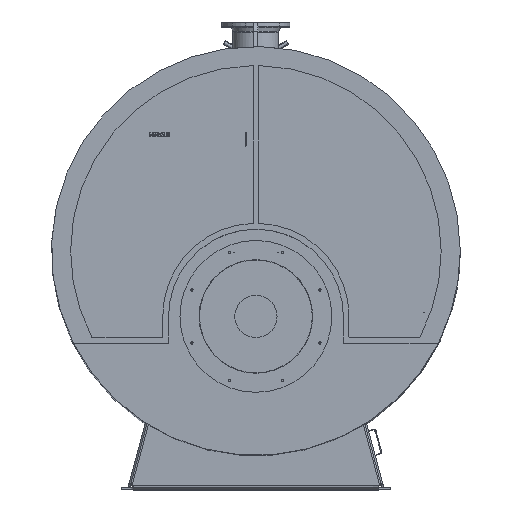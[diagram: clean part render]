
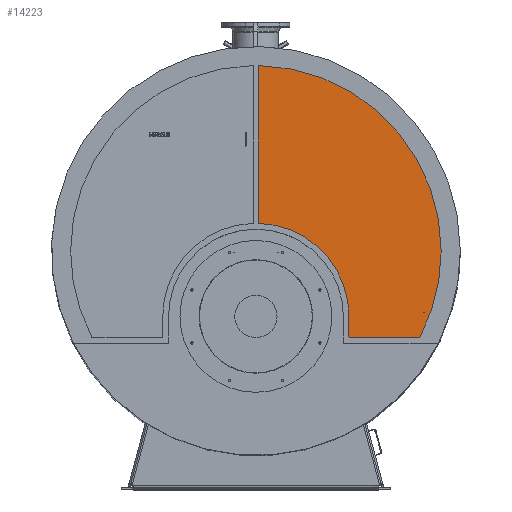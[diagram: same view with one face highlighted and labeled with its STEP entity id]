
A CAD part, top view. The second image highlights one B-rep face of the part: STEP entity #14223.
In plain terms, the highlighted planar face has unit normal (0, 0, 1).
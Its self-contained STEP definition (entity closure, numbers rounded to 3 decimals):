
#14018=CARTESIAN_POINT('',(15.,1090.298,313.));
#14019=VERTEX_POINT('',#14018);
#14020=CARTESIAN_POINT('',(15.,169.104,313.));
#14021=VERTEX_POINT('',#14020);
#14022=CARTESIAN_POINT('',(15.,1090.298,313.));
#14023=DIRECTION('',(-0.,-1.,0.));
#14024=VECTOR('',#14023,921.194);
#14025=LINE('',#14022,#14024);
#14026=EDGE_CURVE('',#14019,#14021,#14025,.T.);
#14049=CARTESIAN_POINT('',(20.774,163.108,313.));
#14050=VERTEX_POINT('',#14049);
#14051=CARTESIAN_POINT('',(551.,-387.5,313.));
#14052=VERTEX_POINT('',#14051);
#14053=CARTESIAN_POINT('',(0.,-387.5,313.));
#14054=DIRECTION('',(0.,0.,-1.));
#14055=DIRECTION('',(1.,0.,0.));
#14056=AXIS2_PLACEMENT_3D('',#14053,#14054,#14055);
#14057=CIRCLE('',#14056,551.);
#14058=EDGE_CURVE('',#14050,#14052,#14057,.T.);
#14082=CARTESIAN_POINT('',(551.,-508.,313.));
#14083=VERTEX_POINT('',#14082);
#14090=CARTESIAN_POINT('',(551.,-387.5,313.));
#14091=DIRECTION('',(0.,-1.,0.));
#14092=VECTOR('',#14091,120.5);
#14093=LINE('',#14090,#14092);
#14094=EDGE_CURVE('',#14052,#14083,#14093,.T.);
#14106=CARTESIAN_POINT('',(964.949,-514.,313.));
#14107=VERTEX_POINT('',#14106);
#14114=CARTESIAN_POINT('',(557.,-514.,313.));
#14115=VERTEX_POINT('',#14114);
#14116=CARTESIAN_POINT('',(557.,-514.,313.));
#14117=DIRECTION('',(1.,0.,0.));
#14118=VECTOR('',#14117,407.949);
#14119=LINE('',#14116,#14118);
#14120=EDGE_CURVE('',#14115,#14107,#14119,.T.);
#14136=CARTESIAN_POINT('',(1096.5,-0.,313.));
#14137=VERTEX_POINT('',#14136);
#14145=CARTESIAN_POINT('',(21.116,1096.297,313.));
#14146=VERTEX_POINT('',#14145);
#14153=CARTESIAN_POINT('',(0.,0.,313.));
#14154=DIRECTION('',(0.,0.,1.));
#14155=DIRECTION('',(1.,0.,-0.));
#14156=AXIS2_PLACEMENT_3D('',#14153,#14154,#14155);
#14157=CIRCLE('',#14156,1096.5);
#14158=EDGE_CURVE('',#14137,#14146,#14157,.T.);
#14163=CARTESIAN_POINT('',(0.,-387.5,313.));
#14164=DIRECTION('',(0.,0.,-1.));
#14165=DIRECTION('',(-1.,0.,0.));
#14166=AXIS2_PLACEMENT_3D('',#14163,#14164,#14165);
#14167=PLANE('',#14166);
#14168=CARTESIAN_POINT('',(994.5,-365.,313.));
#14169=VERTEX_POINT('',#14168);
#14170=CARTESIAN_POINT('',(995.,-365.,313.));
#14171=DIRECTION('',(0.,0.,-1.));
#14172=DIRECTION('',(-1.,0.,0.));
#14173=AXIS2_PLACEMENT_3D('',#14170,#14171,#14172);
#14174=CIRCLE('',#14173,0.5);
#14175=EDGE_CURVE('',#14169,#14169,#14174,.T.);
#14176=ORIENTED_EDGE('',*,*,#14175,.T.);
#14177=EDGE_LOOP('',(#14176));
#14178=FACE_BOUND('',#14177,.T.);
#14179=CARTESIAN_POINT('',(970.258,-510.795,313.));
#14180=VERTEX_POINT('',#14179);
#14181=CARTESIAN_POINT('',(0.,0.,313.));
#14182=DIRECTION('',(0.,0.,1.));
#14183=DIRECTION('',(1.,0.,-0.));
#14184=AXIS2_PLACEMENT_3D('',#14181,#14182,#14183);
#14185=CIRCLE('',#14184,1096.5);
#14186=EDGE_CURVE('',#14180,#14137,#14185,.T.);
#14187=ORIENTED_EDGE('',*,*,#14186,.T.);
#14188=ORIENTED_EDGE('',*,*,#14158,.T.);
#14189=CARTESIAN_POINT('',(21.,1090.298,313.));
#14190=DIRECTION('',(-0.,-0.,1.));
#14191=DIRECTION('',(-1.,0.,0.));
#14192=AXIS2_PLACEMENT_3D('',#14189,#14190,#14191);
#14193=CIRCLE('',#14192,6.);
#14194=EDGE_CURVE('',#14146,#14019,#14193,.T.);
#14195=ORIENTED_EDGE('',*,*,#14194,.T.);
#14196=ORIENTED_EDGE('',*,*,#14026,.T.);
#14197=CARTESIAN_POINT('',(21.,169.104,313.));
#14198=DIRECTION('',(-0.,-0.,1.));
#14199=DIRECTION('',(-1.,0.,0.));
#14200=AXIS2_PLACEMENT_3D('',#14197,#14198,#14199);
#14201=CIRCLE('',#14200,6.);
#14202=EDGE_CURVE('',#14021,#14050,#14201,.T.);
#14203=ORIENTED_EDGE('',*,*,#14202,.T.);
#14204=ORIENTED_EDGE('',*,*,#14058,.T.);
#14205=ORIENTED_EDGE('',*,*,#14094,.T.);
#14206=CARTESIAN_POINT('',(557.,-508.,313.));
#14207=DIRECTION('',(-0.,-0.,1.));
#14208=DIRECTION('',(-1.,0.,0.));
#14209=AXIS2_PLACEMENT_3D('',#14206,#14207,#14208);
#14210=CIRCLE('',#14209,6.);
#14211=EDGE_CURVE('',#14083,#14115,#14210,.T.);
#14212=ORIENTED_EDGE('',*,*,#14211,.T.);
#14213=ORIENTED_EDGE('',*,*,#14120,.T.);
#14214=CARTESIAN_POINT('',(964.949,-508.,313.));
#14215=DIRECTION('',(-0.,-0.,1.));
#14216=DIRECTION('',(-1.,0.,0.));
#14217=AXIS2_PLACEMENT_3D('',#14214,#14215,#14216);
#14218=CIRCLE('',#14217,6.);
#14219=EDGE_CURVE('',#14107,#14180,#14218,.T.);
#14220=ORIENTED_EDGE('',*,*,#14219,.T.);
#14221=EDGE_LOOP('',(#14187,#14188,#14195,#14196,#14203,#14204,#14205,#14212,#14213,#14220));
#14222=FACE_BOUND('',#14221,.T.);
#14223=ADVANCED_FACE('',(#14178,#14222),#14167,.F.);
